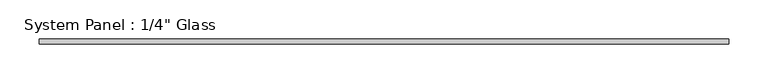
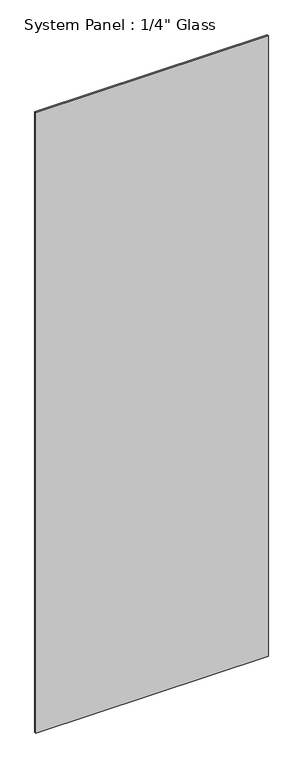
"""IFC4 building model written with IfcOpenShell, lengths in millimetres: plate geometry."""

import ifcopenshell
import ifcopenshell.guid

model = None  # the IFC model being written
_history = None  # IfcOwnerHistory: only IFC2X3 demands one
_inside = {}  # id of a spatial element -> (the spatial element, [elements in it])
_under = {}  # id of a project, library or spatial element -> (it, [spatial elements below it])
_declared = {}  # id of a project -> (the project, [libraries it declares])
_typed = {}  # id of a type object -> (the type object, [elements of that type])
_made_of = {}  # id of a material, layer set ... -> (it, [elements and type objects made of it])


def new_model(schema):
    """Start an empty IFC model of exactly this schema.

    Asked for "IFC4X3", IfcOpenShell would pick the latest addendum, in which some entities
    have other attributes; the version numbers below select the first issue.
    IFC2X3 requires an IfcOwnerHistory on every rooted entity: one is made here for all.
    """
    global model, _history
    if schema == "IFC4X3":
        model = ifcopenshell.file(schema_version=(4, 3, 0, 0))
    else:
        model = ifcopenshell.file(schema=schema)
    _inside.clear()
    _under.clear()
    _declared.clear()
    _typed.clear()
    _made_of.clear()
    _history = None
    if model.schema == "IFC2X3":
        org = make("IfcOrganization", Name="unknown")
        user = make(
            "IfcPersonAndOrganization",
            ThePerson=make("IfcPerson", FamilyName="unknown"),
            TheOrganization=org,
        )
        app = make(
            "IfcApplication",
            ApplicationDeveloper=org,
            Version="unknown",
            ApplicationFullName="unknown",
            ApplicationIdentifier="unknown",
        )
        _history = make(
            "IfcOwnerHistory",
            OwningUser=user,
            OwningApplication=app,
            ChangeAction="ADDED",
            CreationDate=0,
        )
    return model


def make(cls, **values):
    """One entity of the class cls with the attributes given. An attribute that is None is left unset."""
    return model.create_entity(
        cls, **{name: value for name, value in values.items() if value is not None}
    )


def rooted(cls, **values):
    """An entity with a GlobalId (a new one), such as an element, a storey or a relation."""
    return make(cls, GlobalId=ifcopenshell.guid.new(), OwnerHistory=_history, **values)


def si_unit(unit_type, name, prefix=None):
    """IfcSIUnit, for example si_unit("LENGTHUNIT", "METRE", prefix="MILLI")."""
    return make("IfcSIUnit", UnitType=unit_type, Prefix=prefix, Name=name)


def assignment(units):
    """IfcUnitAssignment: the units of a project."""
    return None if units is None else make("IfcUnitAssignment", Units=units)


def point(xyz):
    """IfcCartesianPoint."""
    return None if xyz is None else make("IfcCartesianPoint", Coordinates=xyz)


def direction(xyz):
    """IfcDirection."""
    return None if xyz is None else make("IfcDirection", DirectionRatios=xyz)


def frame(location, z_axis=None, x_axis=None):
    """IfcAxis2Placement3D, a coordinate frame: its origin and axes. An axis left out is left unset."""
    return make(
        "IfcAxis2Placement3D",
        Location=point(location),
        Axis=direction(z_axis),
        RefDirection=direction(x_axis),
    )


def origin():
    """The frame at (0, 0, 0) with its axes left unset."""
    return frame((0.0, 0.0, 0.0))


def origin_with_axes():
    """The frame at (0, 0, 0) with the z axis (0, 0, 1) and the x axis (1, 0, 0) written out."""
    return frame((0.0, 0.0, 0.0), z_axis=(0.0, 0.0, 1.0), x_axis=(1.0, 0.0, 0.0))


def place(relative_to, where):
    """IfcLocalPlacement: puts the frame where relative to a parent placement (None: the world)."""
    return make(
        "IfcLocalPlacement", PlacementRelTo=relative_to, RelativePlacement=where
    )


def context(
    kind, dimensions, precision=None, world=None, true_north=None, identifier=None
):
    """IfcGeometricRepresentationContext, for example the 3D "Model" context."""
    return make(
        "IfcGeometricRepresentationContext",
        ContextIdentifier=identifier,
        ContextType=kind,
        CoordinateSpaceDimension=dimensions,
        Precision=precision,
        WorldCoordinateSystem=world,
        TrueNorth=true_north,
    )


def project(units=None, contexts=None):
    """IfcProject with its units and contexts."""
    return rooted(
        "IfcProject",
        Name="project",
        RepresentationContexts=contexts,
        UnitsInContext=assignment(units),
    )


def spatial(cls, under=None, at=None, **own):
    """A site, building, storey or space (cls), placed at a placement, below another one or the project."""
    s = rooted(cls, ObjectPlacement=at, **own)
    if under is not None:
        _under.setdefault(under.id(), (under, []))[1].append(s)
    return s


def polyline(points):
    """IfcPolyline through the points."""
    return make("IfcPolyline", Points=[point(p) for p in points])


def outline(outer, holes=None, kind="AREA"):
    """IfcArbitraryClosedProfileDef: a profile drawn as a closed curve; with holes, ...WithVoids."""
    if holes is None:
        return make("IfcArbitraryClosedProfileDef", ProfileType=kind, OuterCurve=outer)
    return make(
        "IfcArbitraryProfileDefWithVoids",
        ProfileType=kind,
        OuterCurve=outer,
        InnerCurves=holes,
    )


def extrude(swept, where, along, depth):
    """IfcExtrudedAreaSolid: the profile swept, set in the frame where, extruded along a direction by depth."""
    return make(
        "IfcExtrudedAreaSolid",
        SweptArea=swept,
        Position=where,
        ExtrudedDirection=direction(along),
        Depth=depth,
    )


def shape(context_of_items, identifier, shape_type, items):
    """IfcShapeRepresentation: the items that make up one representation, for example the "Body"."""
    return make(
        "IfcShapeRepresentation",
        ContextOfItems=context_of_items,
        RepresentationIdentifier=identifier,
        RepresentationType=shape_type,
        Items=items,
    )


def source(mapping_origin, context_of_items, identifier, shape_type, items):
    """IfcRepresentationMap: a shape defined once, which mapped items show again and again."""
    return make(
        "IfcRepresentationMap",
        MappingOrigin=mapping_origin,
        MappedRepresentation=shape(context_of_items, identifier, shape_type, items),
    )


def transform(
    local_origin,
    x_axis=None,
    y_axis=None,
    z_axis=None,
    scale=None,
    scale2=None,
    scale3=None,
    uniform=True,
):
    """IfcCartesianTransformationOperator3D, or its non-uniform kind. x_axis, y_axis, z_axis: its Axis1, 2, 3."""
    if uniform:
        return make(
            "IfcCartesianTransformationOperator3D",
            Axis1=direction(x_axis),
            Axis2=direction(y_axis),
            LocalOrigin=point(local_origin),
            Scale=scale,
            Axis3=direction(z_axis),
        )
    return make(
        "IfcCartesianTransformationOperator3DnonUniform",
        Axis1=direction(x_axis),
        Axis2=direction(y_axis),
        LocalOrigin=point(local_origin),
        Scale=scale,
        Axis3=direction(z_axis),
        Scale2=scale2,
        Scale3=scale3,
    )


def mapped(mapping_source, mapping_target):
    """IfcMappedItem: shows the shape of a source again, moved by a transform."""
    return make(
        "IfcMappedItem", MappingSource=mapping_source, MappingTarget=mapping_target
    )


def made_of(thing, what):
    """Note that an element or type object is made of a material, layer set ...; save() writes the relation."""
    if what is not None:
        _made_of.setdefault(what.id(), (what, []))[1].append(thing)
    return thing


def element(
    cls,
    number,
    at=None,
    inside=None,
    cuts=None,
    type_object=None,
    material=None,
    context=None,
    identifier="Body",
    shape_type=None,
    held_by="IfcProductDefinitionShape",
    body=None,
    shapes=None,
    **own,
):
    """One element of the class cls, such as IfcWall. Its Tag is "e" and its number.

    at: its placement. inside: the storey or other place that contains it. cuts: it is an
    opening in that element (IfcRelVoidsElement). A single representation is given by context,
    identifier, shape_type and body (its items); several are given by shapes. held_by: the class
    of the entity that holds the representations. save() writes the other relations.
    """
    e = rooted(cls, Tag="e%d" % number, ObjectPlacement=at, **own)
    if body is not None:
        shapes = [shape(context, identifier, shape_type, body)]
    if shapes is not None:
        e.Representation = make(held_by, Representations=shapes)
    if inside is not None:
        _inside.setdefault(inside.id(), (inside, []))[1].append(e)
    if cuts is not None:
        rooted(
            "IfcRelVoidsElement", RelatingBuildingElement=cuts, RelatedOpeningElement=e
        )
    if type_object is not None:
        _typed.setdefault(type_object.id(), (type_object, []))[1].append(e)
    return made_of(e, material)


def aggregate(whole, parts):
    """IfcRelAggregates: a whole, such as a stair, and the parts it consists of."""
    return rooted("IfcRelAggregates", RelatingObject=whole, RelatedObjects=parts)


def save(model, path):
    """Write the relations noted so far, then the file.

    IfcRelAggregates (storeys below a building ...), IfcRelContainedInSpatialStructure (elements
    in a storey), IfcRelDefinesByType, IfcRelAssociatesMaterial and IfcRelDeclares: one each for
    every whole, place, type object, material and project.
    """
    for whole, parts in _under.values():
        aggregate(whole, parts)
    for where, things in _inside.values():
        rooted(
            "IfcRelContainedInSpatialStructure",
            RelatedElements=things,
            RelatingStructure=where,
        )
    for kind, things in _typed.values():
        rooted("IfcRelDefinesByType", RelatedObjects=things, RelatingType=kind)
    for what, things in _made_of.values():
        rooted("IfcRelAssociatesMaterial", RelatedObjects=things, RelatingMaterial=what)
    for by, libraries in _declared.values():
        rooted("IfcRelDeclares", RelatingContext=by, RelatedDefinitions=libraries)
    model.write(path)


def plate_33a48981(model_context):
    return source(origin(), model_context, "Body", "SweptSolid", [
        extrude(outline(polyline([(441.5733183, -3.175), (-441.5733183, -3.175), (-441.5733183, 3.175), (441.5733183, 3.175), (441.5733183, -3.175)])), origin_with_axes(), (0.0, 0.0, 1.0), 2489.2),
    ])


if __name__ == "__main__":
    model = new_model("IFC4")
    model_context = context("Model", 3, world=origin())
    ifc_project = project(units=[si_unit("LENGTHUNIT", "METRE", prefix="MILLI")], contexts=[model_context])
    site = spatial("IfcSite", under=ifc_project)
    building = spatial("IfcBuilding", under=site)
    placement = place(None, origin())
    plate_shape = plate_33a48981(model_context)
    element("IfcPlate", 1, ObjectType="System Panel : 1/4\" Glass", at=placement, inside=building, context=model_context, shape_type="MappedRepresentation", body=[
        mapped(plate_shape, transform((0.0, 0.0, 0.0), x_axis=(1.0, 0.0, 0.0), y_axis=(0.0, 1.0, 0.0), z_axis=(0.0, 0.0, 1.0))),
    ])
    save(model, "model.ifc")
